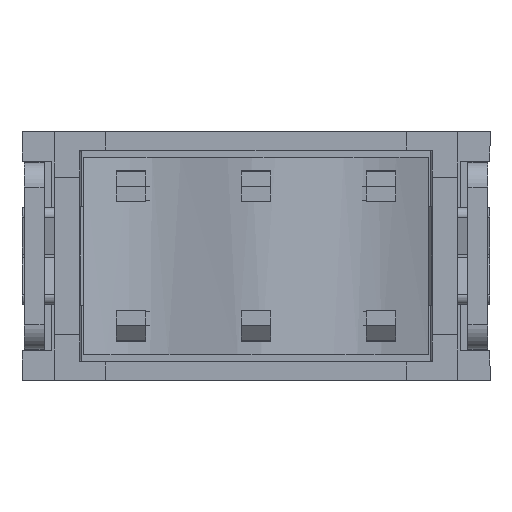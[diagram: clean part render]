
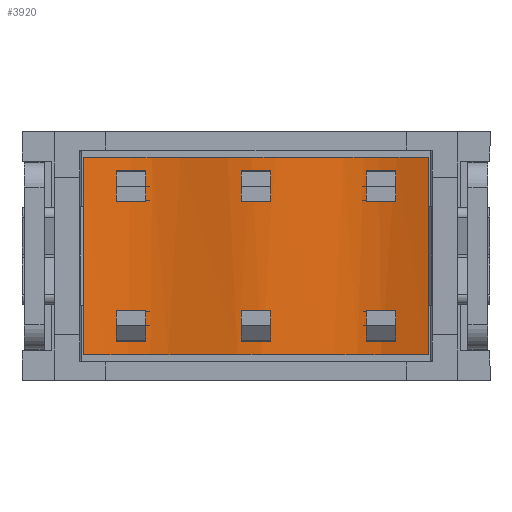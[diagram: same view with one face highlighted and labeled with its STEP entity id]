
A CAD part, front view. The second image highlights one B-rep face of the part: STEP entity #3920.
In plain terms, the highlighted free-form (B-spline) face has degree [3, 1] with [7, 2] control points.
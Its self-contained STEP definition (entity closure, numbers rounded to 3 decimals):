
#2 = B_SPLINE_SURFACE_WITH_KNOTS ( 'NONE', 3, 1, ( 
 ( #12498, #12499 ),
 ( #12500, #12501 ),
 ( #12502, #12503 ),
 ( #12504, #12505 ),
 ( #12506, #12507 ),
 ( #12508, #12509 ),
 ( #12510, #12511 ) ),
 .UNSPECIFIED., .F., .F., .F.,
 ( 4, 1, 1, 1, 4 ),
 ( 2, 2 ),
 ( 0., 0.208, 0.5, 0.807, 1. ),
 ( 0., 1. ),
 .UNSPECIFIED. ) ;
#3897 = EDGE_CURVE ( 'NONE', #5039, #5037, #19114, .T. ) ;
#3901 = EDGE_CURVE ( 'NONE', #5032, #5035, #19113, .T. ) ;
#3903 = EDGE_CURVE ( 'NONE', #5035, #5039, #12444, .T. ) ;
#3905 = EDGE_CURVE ( 'NONE', #5032, #5037, #12450, .T. ) ;
#3920 = ADVANCED_FACE ( 'NONE', ( #11720 ), #2, .F. ) ;
#4432 = ORIENTED_EDGE ( 'NONE', *, *, #3897, .F. ) ;
#4434 = ORIENTED_EDGE ( 'NONE', *, *, #3901, .F. ) ;
#4435 = ORIENTED_EDGE ( 'NONE', *, *, #3905, .T. ) ;
#4436 = ORIENTED_EDGE ( 'NONE', *, *, #3903, .F. ) ;
#4895 = EDGE_LOOP ( 'NONE', ( #4434, #4435, #4432, #4436 ) ) ;
#5032 = VERTEX_POINT ( 'NONE', #14342 ) ;
#5035 = VERTEX_POINT ( 'NONE', #14345 ) ;
#5037 = VERTEX_POINT ( 'NONE', #14347 ) ;
#5039 = VERTEX_POINT ( 'NONE', #14349 ) ;
#11702 = VECTOR ( 'NONE', #12446, 1000. ) ;
#11705 = VECTOR ( 'NONE', #12452, 1000. ) ;
#11720 = FACE_OUTER_BOUND ( 'NONE', #4895, .T. ) ;
#12408 = CARTESIAN_POINT ( 'NONE',  ( 2., 1., -3.5 ) ) ;
#12418 = CARTESIAN_POINT ( 'NONE',  ( 2., 0.855, -3.054 ) ) ;
#12419 = CARTESIAN_POINT ( 'NONE',  ( 2., 0.481, -1.902 ) ) ;
#12420 = CARTESIAN_POINT ( 'NONE',  ( 2., 1.308, -0.032 ) ) ;
#12421 = CARTESIAN_POINT ( 'NONE',  ( 2., 0.489, 1.862 ) ) ;
#12422 = CARTESIAN_POINT ( 'NONE',  ( 2., 0.85, 3.019 ) ) ;
#12423 = CARTESIAN_POINT ( 'NONE',  ( 2., 1., 3.5 ) ) ;
#12424 = CARTESIAN_POINT ( 'NONE',  ( -2., 1., 3.5 ) ) ;
#12434 = CARTESIAN_POINT ( 'NONE',  ( -2., 0.85, 3.019 ) ) ;
#12435 = CARTESIAN_POINT ( 'NONE',  ( -2., 0.489, 1.862 ) ) ;
#12436 = CARTESIAN_POINT ( 'NONE',  ( -2., 1.308, -0.032 ) ) ;
#12437 = CARTESIAN_POINT ( 'NONE',  ( -2., 0.481, -1.902 ) ) ;
#12438 = CARTESIAN_POINT ( 'NONE',  ( -2., 0.855, -3.054 ) ) ;
#12439 = CARTESIAN_POINT ( 'NONE',  ( -2., 1., -3.5 ) ) ;
#12444 = LINE ( 'NONE', #12445, #11702 ) ;
#12445 = CARTESIAN_POINT ( 'NONE',  ( 0., 1., -3.5 ) ) ;
#12446 = DIRECTION ( 'NONE',  ( 1., 0., 0. ) ) ;
#12450 = LINE ( 'NONE', #12451, #11705 ) ;
#12451 = CARTESIAN_POINT ( 'NONE',  ( 0., 1., 3.5 ) ) ;
#12452 = DIRECTION ( 'NONE',  ( 1., 0., 0. ) ) ;
#12498 = CARTESIAN_POINT ( 'NONE',  ( -2., 1., 3.5 ) ) ;
#12499 = CARTESIAN_POINT ( 'NONE',  ( 2., 1., 3.5 ) ) ;
#12500 = CARTESIAN_POINT ( 'NONE',  ( -2., 0.85, 3.019 ) ) ;
#12501 = CARTESIAN_POINT ( 'NONE',  ( 2., 0.85, 3.019 ) ) ;
#12502 = CARTESIAN_POINT ( 'NONE',  ( -2., 0.489, 1.862 ) ) ;
#12503 = CARTESIAN_POINT ( 'NONE',  ( 2., 0.489, 1.862 ) ) ;
#12504 = CARTESIAN_POINT ( 'NONE',  ( -2., 1.308, -0.032 ) ) ;
#12505 = CARTESIAN_POINT ( 'NONE',  ( 2., 1.308, -0.032 ) ) ;
#12506 = CARTESIAN_POINT ( 'NONE',  ( -2., 0.481, -1.902 ) ) ;
#12507 = CARTESIAN_POINT ( 'NONE',  ( 2., 0.481, -1.902 ) ) ;
#12508 = CARTESIAN_POINT ( 'NONE',  ( -2., 0.855, -3.054 ) ) ;
#12509 = CARTESIAN_POINT ( 'NONE',  ( 2., 0.855, -3.054 ) ) ;
#12510 = CARTESIAN_POINT ( 'NONE',  ( -2., 1., -3.5 ) ) ;
#12511 = CARTESIAN_POINT ( 'NONE',  ( 2., 1., -3.5 ) ) ;
#14342 = CARTESIAN_POINT ( 'NONE',  ( -2., 1., 3.5 ) ) ;
#14345 = CARTESIAN_POINT ( 'NONE',  ( -2., 1., -3.5 ) ) ;
#14347 = CARTESIAN_POINT ( 'NONE',  ( 2., 1., 3.5 ) ) ;
#14349 = CARTESIAN_POINT ( 'NONE',  ( 2., 1., -3.5 ) ) ;
#19113 = B_SPLINE_CURVE_WITH_KNOTS ( 'NONE', 3,
 ( #12424, #12434, #12435, #12436, #12437, #12438, #12439 ),
 .UNSPECIFIED., .F., .F.,
 ( 4, 1, 1, 1, 4 ),
 ( 0., 0.001, 0.004, 0.006, 0.007 ),
 .UNSPECIFIED. ) ;
#19114 = B_SPLINE_CURVE_WITH_KNOTS ( 'NONE', 3,
 ( #12408, #12418, #12419, #12420, #12421, #12422, #12423 ),
 .UNSPECIFIED., .F., .F.,
 ( 4, 1, 1, 1, 4 ),
 ( 0., 0.001, 0.004, 0.006, 0.007 ),
 .UNSPECIFIED. ) ;
